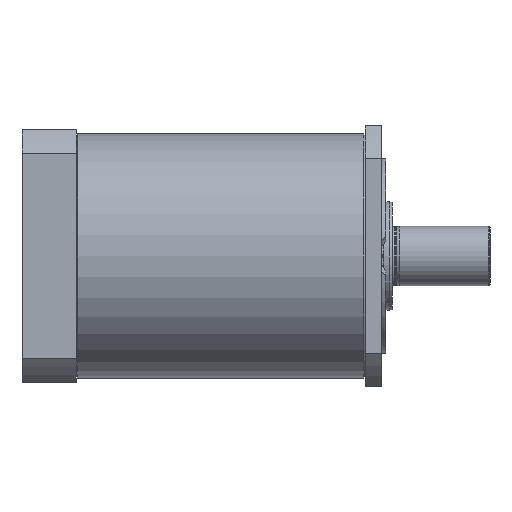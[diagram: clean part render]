
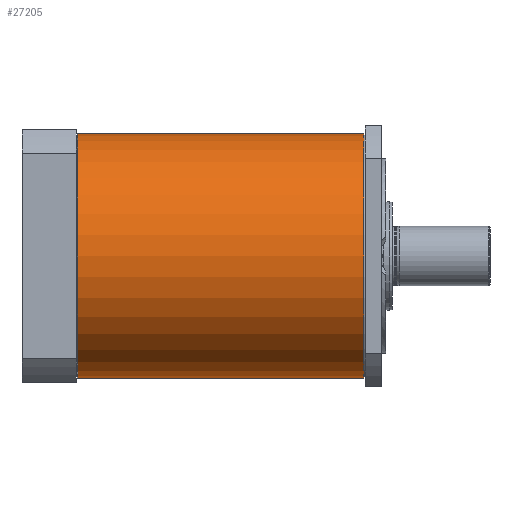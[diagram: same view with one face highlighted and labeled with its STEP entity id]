
A CAD part, front view. The second image highlights one B-rep face of the part: STEP entity #27205.
In plain terms, the highlighted cylindrical face has radius 45 mm (diameter 90 mm), a partial arc.
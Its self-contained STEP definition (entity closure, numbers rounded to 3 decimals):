
#460 = VECTOR ( 'NONE', #22514, 1000. ) ;
#1328 = LINE ( 'NONE', #26349, #460 ) ;
#1564 = EDGE_CURVE ( 'NONE', #8899, #15438, #1328, .T. ) ;
#2340 = ORIENTED_EDGE ( 'NONE', *, *, #1564, .T. ) ;
#2602 = EDGE_LOOP ( 'NONE', ( #36682, #16378, #2340, #15739 ) ) ;
#3357 = CYLINDRICAL_SURFACE ( 'NONE', #34890, 45. ) ;
#3787 = CARTESIAN_POINT ( 'NONE',  ( 0.5, 0., -45. ) ) ;
#4342 = CARTESIAN_POINT ( 'NONE',  ( 0.5, 0., 0. ) ) ;
#5902 = CARTESIAN_POINT ( 'NONE',  ( 52.368, 0., 45. ) ) ;
#8899 = VERTEX_POINT ( 'NONE', #3787 ) ;
#10468 = VERTEX_POINT ( 'NONE', #29137 ) ;
#10815 = AXIS2_PLACEMENT_3D ( 'NONE', #16202, #18667, #19479 ) ;
#13017 = EDGE_CURVE ( 'NONE', #15438, #13644, #16071, .T. ) ;
#13644 = VERTEX_POINT ( 'NONE', #23790 ) ;
#15438 = VERTEX_POINT ( 'NONE', #20210 ) ;
#15739 = ORIENTED_EDGE ( 'NONE', *, *, #13017, .T. ) ;
#15911 = DIRECTION ( 'NONE',  ( 0., 0., -1. ) ) ;
#16071 = CIRCLE ( 'NONE', #10815, 45. ) ;
#16202 = CARTESIAN_POINT ( 'NONE',  ( 106., 0., 0. ) ) ;
#16378 = ORIENTED_EDGE ( 'NONE', *, *, #33697, .T. ) ;
#18467 = CIRCLE ( 'NONE', #31541, 45. ) ;
#18667 = DIRECTION ( 'NONE',  ( -1., 0., 0. ) ) ;
#19479 = DIRECTION ( 'NONE',  ( 0., 0., 1. ) ) ;
#20210 = CARTESIAN_POINT ( 'NONE',  ( 106., 0., -45. ) ) ;
#21708 = LINE ( 'NONE', #5902, #39907 ) ;
#22514 = DIRECTION ( 'NONE',  ( 1., 0., 0. ) ) ;
#23790 = CARTESIAN_POINT ( 'NONE',  ( 106., 0., 45. ) ) ;
#23914 = EDGE_CURVE ( 'NONE', #10468, #13644, #21708, .T. ) ;
#26349 = CARTESIAN_POINT ( 'NONE',  ( 52.368, 0., -45. ) ) ;
#26910 = DIRECTION ( 'NONE',  ( 0., 0., -1. ) ) ;
#27205 = ADVANCED_FACE ( 'NONE', ( #38000 ), #3357, .T. ) ;
#29137 = CARTESIAN_POINT ( 'NONE',  ( 0.5, 0., 45. ) ) ;
#30719 = DIRECTION ( 'NONE',  ( 1., 0., 0. ) ) ;
#31541 = AXIS2_PLACEMENT_3D ( 'NONE', #4342, #32848, #26910 ) ;
#31655 = CARTESIAN_POINT ( 'NONE',  ( 52.368, 0., 0. ) ) ;
#32052 = DIRECTION ( 'NONE',  ( 1., 0., 0. ) ) ;
#32848 = DIRECTION ( 'NONE',  ( 1., 0., 0. ) ) ;
#33697 = EDGE_CURVE ( 'NONE', #10468, #8899, #18467, .T. ) ;
#34890 = AXIS2_PLACEMENT_3D ( 'NONE', #31655, #32052, #15911 ) ;
#36682 = ORIENTED_EDGE ( 'NONE', *, *, #23914, .F. ) ;
#38000 = FACE_OUTER_BOUND ( 'NONE', #2602, .T. ) ;
#39907 = VECTOR ( 'NONE', #30719, 1000. ) ;
